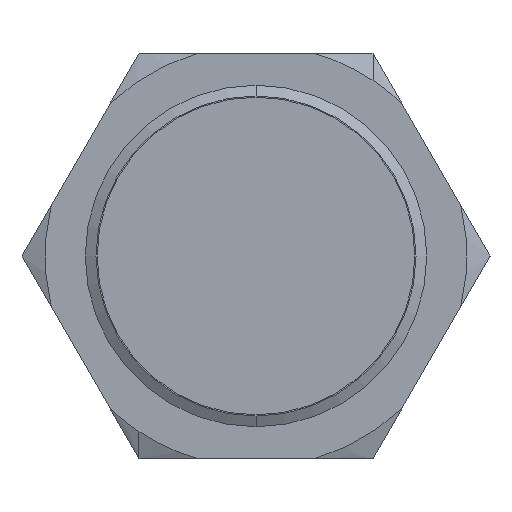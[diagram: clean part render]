
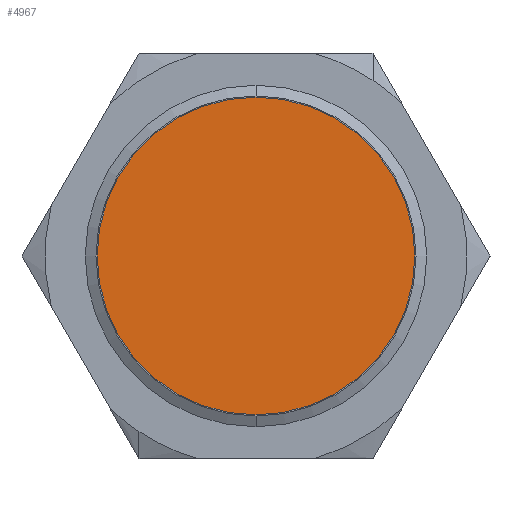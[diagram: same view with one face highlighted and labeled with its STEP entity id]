
A CAD part, left-side view. The second image highlights one B-rep face of the part: STEP entity #4967.
In plain terms, the highlighted planar face has unit normal (-1, 0, 0).
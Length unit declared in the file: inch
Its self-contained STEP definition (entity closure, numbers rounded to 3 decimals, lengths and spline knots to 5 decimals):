
#1376 = FACE_OUTER_BOUND ( 'NONE', #4928, .T. ) ;
#1377 = PLANE ( 'NONE',  #1378 ) ;
#1378 = AXIS2_PLACEMENT_3D ( 'NONE', #1379, #1380, #1381 ) ;
#1379 = CARTESIAN_POINT ( 'NONE',  ( 0., 0., 0. ) ) ;
#1380 = DIRECTION ( 'NONE',  ( 1., 0., 0. ) ) ;
#1381 = DIRECTION ( 'NONE',  ( 0., 0., -1. ) ) ;
#1479 = CIRCLE ( 'NONE', #1480, 0.55 ) ;
#1480 = AXIS2_PLACEMENT_3D ( 'NONE', #1481, #1482, #1483 ) ;
#1481 = CARTESIAN_POINT ( 'NONE',  ( 0., 0., 0. ) ) ;
#1482 = DIRECTION ( 'NONE',  ( 1., 0., 0. ) ) ;
#1483 = DIRECTION ( 'NONE',  ( 0., 0., 1. ) ) ;
#4424 = VERTEX_POINT ( 'NONE', #10114 ) ;
#4744 = ORIENTED_EDGE ( 'NONE', *, *, #9548, .F. ) ;
#4833 = ORIENTED_EDGE ( 'NONE', *, *, #5035, .F. ) ;
#4928 = EDGE_LOOP ( 'NONE', ( #4833, #4744 ) ) ;
#4967 = ADVANCED_FACE ( 'NONE', ( #1376 ), #1377, .F. ) ;
#5035 = EDGE_CURVE ( 'NONE', #4424, #10434, #1479, .T. ) ;
#9548 = EDGE_CURVE ( 'NONE', #10434, #4424, #10440, .T. ) ;
#10114 = CARTESIAN_POINT ( 'NONE',  ( 0., 0., 0.55 ) ) ;
#10434 = VERTEX_POINT ( 'NONE', #11069 ) ;
#10440 = CIRCLE ( 'NONE', #10441, 0.55 ) ;
#10441 = AXIS2_PLACEMENT_3D ( 'NONE', #10442, #10443, #10444 ) ;
#10442 = CARTESIAN_POINT ( 'NONE',  ( 0., 0., 0. ) ) ;
#10443 = DIRECTION ( 'NONE',  ( 1., 0., 0. ) ) ;
#10444 = DIRECTION ( 'NONE',  ( 0., 0., 1. ) ) ;
#11069 = CARTESIAN_POINT ( 'NONE',  ( 0., 0., -0.55 ) ) ;
